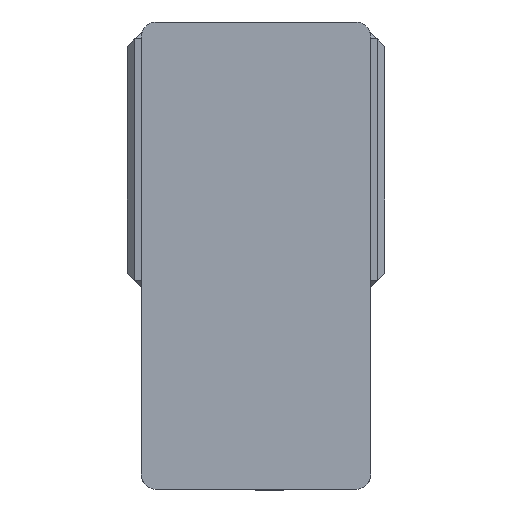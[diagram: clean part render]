
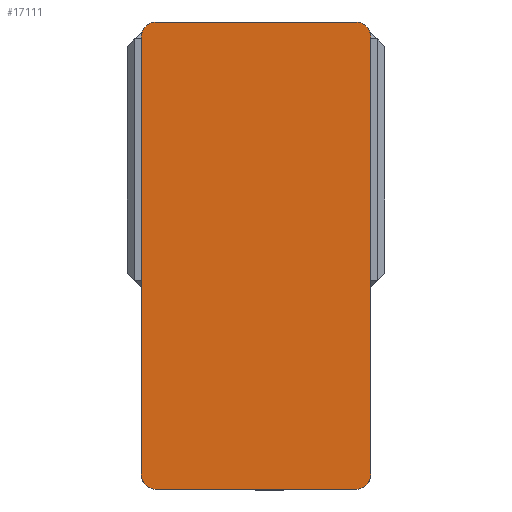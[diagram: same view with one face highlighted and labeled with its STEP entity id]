
A CAD part, left-side view. The second image highlights one B-rep face of the part: STEP entity #17111.
In plain terms, the highlighted planar face has unit normal (-1, 0, 0) as drawn and (0, 0, 1) by its records, which use the part's own axes.
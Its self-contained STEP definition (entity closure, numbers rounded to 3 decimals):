
#247 = DIRECTION ( 'NONE',  ( 0., 0., 1. ) ) ;
#514 = ORIENTED_EDGE ( 'NONE', *, *, #6672, .T. ) ;
#1211 = VERTEX_POINT ( 'NONE', #2389 ) ;
#1912 = CIRCLE ( 'NONE', #15132, 10. ) ;
#2044 = PLANE ( 'NONE',  #6170 ) ;
#2220 = CIRCLE ( 'NONE', #5464, 10. ) ;
#2358 = ORIENTED_EDGE ( 'NONE', *, *, #15281, .T. ) ;
#2389 = CARTESIAN_POINT ( 'NONE',  ( 75., -142.5, 105. ) ) ;
#2781 = DIRECTION ( 'NONE',  ( 0., 0., 1. ) ) ;
#2826 = LINE ( 'NONE', #3367, #10168 ) ;
#3252 = AXIS2_PLACEMENT_3D ( 'NONE', #13040, #3724, #14605 ) ;
#3367 = CARTESIAN_POINT ( 'NONE',  ( -75., -152.5, 105. ) ) ;
#3554 = VERTEX_POINT ( 'NONE', #3881 ) ;
#3624 = DIRECTION ( 'NONE',  ( 1., 0., 0. ) ) ;
#3707 = VERTEX_POINT ( 'NONE', #4077 ) ;
#3724 = DIRECTION ( 'NONE',  ( 0., 0., 1. ) ) ;
#3881 = CARTESIAN_POINT ( 'NONE',  ( -75., -142.5, 105. ) ) ;
#4077 = CARTESIAN_POINT ( 'NONE',  ( 65., -152.5, 105. ) ) ;
#4213 = CARTESIAN_POINT ( 'NONE',  ( 75., 142.5, 105. ) ) ;
#4472 = CIRCLE ( 'NONE', #3252, 10. ) ;
#5161 = ORIENTED_EDGE ( 'NONE', *, *, #18512, .T. ) ;
#5464 = AXIS2_PLACEMENT_3D ( 'NONE', #12113, #2781, #13685 ) ;
#5890 = CARTESIAN_POINT ( 'NONE',  ( -75., 152.5, 105. ) ) ;
#6170 = AXIS2_PLACEMENT_3D ( 'NONE', #6689, #12949, #3624 ) ;
#6672 = EDGE_CURVE ( 'NONE', #3707, #1211, #12879, .T. ) ;
#6689 = CARTESIAN_POINT ( 'NONE',  ( 0., 0., 105. ) ) ;
#6821 = AXIS2_PLACEMENT_3D ( 'NONE', #9614, #247, #11169 ) ;
#6831 = ORIENTED_EDGE ( 'NONE', *, *, #10222, .T. ) ;
#7425 = VERTEX_POINT ( 'NONE', #7882 ) ;
#7882 = CARTESIAN_POINT ( 'NONE',  ( -65., -152.5, 105. ) ) ;
#8032 = EDGE_CURVE ( 'NONE', #8251, #3554, #17110, .T. ) ;
#8099 = ORIENTED_EDGE ( 'NONE', *, *, #12573, .T. ) ;
#8130 = DIRECTION ( 'NONE',  ( 0., 0., 1. ) ) ;
#8251 = VERTEX_POINT ( 'NONE', #14075 ) ;
#9312 = VECTOR ( 'NONE', #15228, 1000. ) ;
#9471 = ORIENTED_EDGE ( 'NONE', *, *, #8032, .T. ) ;
#9614 = CARTESIAN_POINT ( 'NONE',  ( 65., -142.5, 105. ) ) ;
#10168 = VECTOR ( 'NONE', #18916, 1000. ) ;
#10222 = EDGE_CURVE ( 'NONE', #3554, #7425, #4472, .T. ) ;
#10953 = EDGE_CURVE ( 'NONE', #1211, #18572, #17417, .T. ) ;
#11169 = DIRECTION ( 'NONE',  ( 1., 0., 0. ) ) ;
#11232 = ORIENTED_EDGE ( 'NONE', *, *, #13733, .T. ) ;
#11708 = VERTEX_POINT ( 'NONE', #16591 ) ;
#12113 = CARTESIAN_POINT ( 'NONE',  ( -65., 142.5, 105. ) ) ;
#12294 = CARTESIAN_POINT ( 'NONE',  ( 75., 152.5, 105. ) ) ;
#12573 = EDGE_CURVE ( 'NONE', #11708, #8251, #2220, .T. ) ;
#12879 = CIRCLE ( 'NONE', #6821, 10. ) ;
#12949 = DIRECTION ( 'NONE',  ( 0., 0., 1. ) ) ;
#13040 = CARTESIAN_POINT ( 'NONE',  ( -65., -142.5, 105. ) ) ;
#13225 = VECTOR ( 'NONE', #13868, 1000. ) ;
#13334 = CARTESIAN_POINT ( 'NONE',  ( -75., 152.5, 105. ) ) ;
#13685 = DIRECTION ( 'NONE',  ( 1., 0., 0. ) ) ;
#13733 = EDGE_CURVE ( 'NONE', #18572, #17247, #1912, .T. ) ;
#13868 = DIRECTION ( 'NONE',  ( 0., 1., 0. ) ) ;
#14075 = CARTESIAN_POINT ( 'NONE',  ( -75., 142.5, 105. ) ) ;
#14605 = DIRECTION ( 'NONE',  ( 1., 0., 0. ) ) ;
#14713 = VECTOR ( 'NONE', #14907, 1000. ) ;
#14907 = DIRECTION ( 'NONE',  ( -1., 0., 0. ) ) ;
#15132 = AXIS2_PLACEMENT_3D ( 'NONE', #17464, #8130, #19027 ) ;
#15201 = LINE ( 'NONE', #13334, #14713 ) ;
#15228 = DIRECTION ( 'NONE',  ( 0., -1., 0. ) ) ;
#15281 = EDGE_CURVE ( 'NONE', #7425, #3707, #2826, .T. ) ;
#16055 = EDGE_LOOP ( 'NONE', ( #2358, #514, #20189, #11232, #5161, #8099, #9471, #6831 ) ) ;
#16460 = FACE_OUTER_BOUND ( 'NONE', #16055, .T. ) ;
#16591 = CARTESIAN_POINT ( 'NONE',  ( -65., 152.5, 105. ) ) ;
#16624 = CARTESIAN_POINT ( 'NONE',  ( 65., 152.5, 105. ) ) ;
#17110 = LINE ( 'NONE', #5890, #9312 ) ;
#17111 = ADVANCED_FACE ( 'NONE', ( #16460 ), #2044, .T. ) ;
#17247 = VERTEX_POINT ( 'NONE', #16624 ) ;
#17417 = LINE ( 'NONE', #12294, #13225 ) ;
#17464 = CARTESIAN_POINT ( 'NONE',  ( 65., 142.5, 105. ) ) ;
#18512 = EDGE_CURVE ( 'NONE', #17247, #11708, #15201, .T. ) ;
#18572 = VERTEX_POINT ( 'NONE', #4213 ) ;
#18916 = DIRECTION ( 'NONE',  ( 1., 0., 0. ) ) ;
#19027 = DIRECTION ( 'NONE',  ( 1., 0., 0. ) ) ;
#20189 = ORIENTED_EDGE ( 'NONE', *, *, #10953, .T. ) ;
